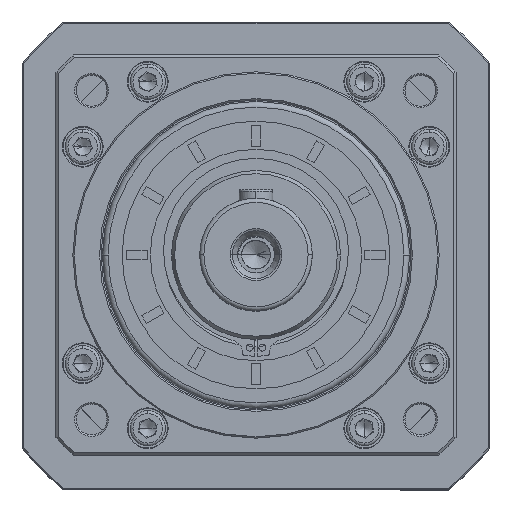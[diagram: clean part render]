
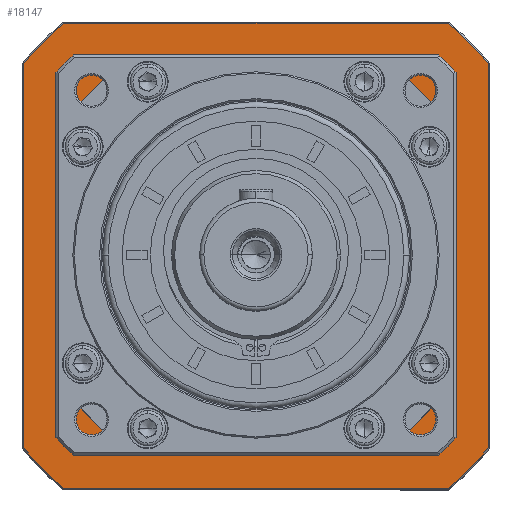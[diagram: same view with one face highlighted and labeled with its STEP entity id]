
A CAD part, top view. The second image highlights one B-rep face of the part: STEP entity #18147.
In plain terms, the highlighted planar face has unit normal (0, 0, 1).
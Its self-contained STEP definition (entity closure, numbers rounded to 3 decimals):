
#436 = AXIS2_PLACEMENT_3D ( 'NONE', #110325, #65059, #82798 ) ;
#2422 = DIRECTION ( 'NONE',  ( 0., 0., -1. ) ) ;
#3797 = CARTESIAN_POINT ( 'NONE',  ( 109.692, 76.653, 111.828 ) ) ;
#4176 = VERTEX_POINT ( 'NONE', #63539 ) ;
#5556 = CIRCLE ( 'NONE', #13897, 82. ) ;
#5875 = CARTESIAN_POINT ( 'NONE',  ( 109.692, 76.653, 111.828 ) ) ;
#6537 = LINE ( 'NONE', #83786, #113814 ) ;
#7111 = CARTESIAN_POINT ( 'NONE',  ( 109.692, 76.653, 111.828 ) ) ;
#7243 = CARTESIAN_POINT ( 'NONE',  ( 27.192, 76.653, 111.828 ) ) ;
#7482 = ORIENTED_EDGE ( 'NONE', *, *, #81609, .F. ) ;
#8190 = CARTESIAN_POINT ( 'NONE',  ( 192.192, 76.653, 111.828 ) ) ;
#10045 = AXIS2_PLACEMENT_3D ( 'NONE', #5875, #91744, #90513 ) ;
#13340 = ORIENTED_EDGE ( 'NONE', *, *, #104570, .F. ) ;
#13733 = ORIENTED_EDGE ( 'NONE', *, *, #15407, .F. ) ;
#13897 = AXIS2_PLACEMENT_3D ( 'NONE', #3797, #69550, #50282 ) ;
#14520 = DIRECTION ( 'NONE',  ( 1., 0., 0. ) ) ;
#14826 = VECTOR ( 'NONE', #14520, 1000. ) ;
#15407 = EDGE_CURVE ( 'NONE', #75190, #93184, #114615, .T. ) ;
#15991 = EDGE_LOOP ( 'NONE', ( #39449, #114896, #43828, #40459, #13733, #67727, #23677, #23781 ) ) ;
#16889 = ORIENTED_EDGE ( 'NONE', *, *, #87533, .F. ) ;
#17264 = CARTESIAN_POINT ( 'NONE',  ( 109.692, 76.653, 111.828 ) ) ;
#17441 = AXIS2_PLACEMENT_3D ( 'NONE', #7111, #43685, #62966 ) ;
#18147 = ADVANCED_FACE ( 'NONE', ( #70637, #64714 ), #47718, .F. ) ;
#21578 = DIRECTION ( 'NONE',  ( 1., 0., 0. ) ) ;
#23677 = ORIENTED_EDGE ( 'NONE', *, *, #55482, .F. ) ;
#23781 = ORIENTED_EDGE ( 'NONE', *, *, #76100, .F. ) ;
#24478 = CIRCLE ( 'NONE', #17441, 107. ) ;
#24686 = ORIENTED_EDGE ( 'NONE', *, *, #35946, .F. ) ;
#25764 = CARTESIAN_POINT ( 'NONE',  ( 192.192, 8.515, 111.828 ) ) ;
#25992 = VECTOR ( 'NONE', #78690, 1000. ) ;
#27528 = DIRECTION ( 'NONE',  ( 0., -1., 0. ) ) ;
#28740 = CARTESIAN_POINT ( 'NONE',  ( 39.192, 118.53, 111.828 ) ) ;
#32952 = VERTEX_POINT ( 'NONE', #25764 ) ;
#33318 = DIRECTION ( 'NONE',  ( -1., 0., 0. ) ) ;
#33429 = EDGE_CURVE ( 'NONE', #80915, #4176, #80371, .T. ) ;
#34929 = VERTEX_POINT ( 'NONE', #28740 ) ;
#35946 = EDGE_CURVE ( 'NONE', #66884, #102069, #105931, .T. ) ;
#36304 = CARTESIAN_POINT ( 'NONE',  ( 109.692, 76.653, 111.828 ) ) ;
#36490 = CARTESIAN_POINT ( 'NONE',  ( 27.192, 8.515, 111.828 ) ) ;
#37475 = CIRCLE ( 'NONE', #88533, 107. ) ;
#39449 = ORIENTED_EDGE ( 'NONE', *, *, #33429, .F. ) ;
#39638 = CIRCLE ( 'NONE', #10045, 82. ) ;
#40459 = ORIENTED_EDGE ( 'NONE', *, *, #121504, .F. ) ;
#41754 = LINE ( 'NONE', #8190, #47602 ) ;
#43685 = DIRECTION ( 'NONE',  ( 0., 0., -1. ) ) ;
#43828 = ORIENTED_EDGE ( 'NONE', *, *, #56528, .F. ) ;
#44073 = VERTEX_POINT ( 'NONE', #36490 ) ;
#45616 = CARTESIAN_POINT ( 'NONE',  ( 27.192, 144.79, 111.828 ) ) ;
#47156 = CARTESIAN_POINT ( 'NONE',  ( 177.83, 159.153, 111.828 ) ) ;
#47602 = VECTOR ( 'NONE', #120709, 1000. ) ;
#47718 = PLANE ( 'NONE',  #72879 ) ;
#48184 = VECTOR ( 'NONE', #65111, 1000. ) ;
#48391 = CARTESIAN_POINT ( 'NONE',  ( 180.192, 34.775, 111.828 ) ) ;
#48487 = EDGE_CURVE ( 'NONE', #34929, #119942, #6537, .T. ) ;
#49586 = CIRCLE ( 'NONE', #118965, 107. ) ;
#50016 = VERTEX_POINT ( 'NONE', #48391 ) ;
#50282 = DIRECTION ( 'NONE',  ( 0., -1., 0. ) ) ;
#54038 = CARTESIAN_POINT ( 'NONE',  ( 67.814, 6.153, 111.828 ) ) ;
#55482 = EDGE_CURVE ( 'NONE', #44073, #103645, #98159, .T. ) ;
#56528 = EDGE_CURVE ( 'NONE', #75052, #32952, #41754, .T. ) ;
#57658 = CIRCLE ( 'NONE', #61344, 82. ) ;
#58198 = CARTESIAN_POINT ( 'NONE',  ( 109.692, 159.153, 111.828 ) ) ;
#59838 = CARTESIAN_POINT ( 'NONE',  ( 192.192, 144.79, 111.828 ) ) ;
#60098 = VERTEX_POINT ( 'NONE', #93981 ) ;
#61344 = AXIS2_PLACEMENT_3D ( 'NONE', #36304, #121281, #120072 ) ;
#62966 = DIRECTION ( 'NONE',  ( -1., 0., 0. ) ) ;
#63276 = DIRECTION ( 'NONE',  ( 0., 0., -1. ) ) ;
#63534 = EDGE_CURVE ( 'NONE', #93857, #77474, #81519, .T. ) ;
#63539 = CARTESIAN_POINT ( 'NONE',  ( 41.554, -5.847, 111.828 ) ) ;
#64060 = CARTESIAN_POINT ( 'NONE',  ( 177.83, -5.847, 111.828 ) ) ;
#64714 = FACE_BOUND ( 'NONE', #86428, .T. ) ;
#65059 = DIRECTION ( 'NONE',  ( 0., 0., 1. ) ) ;
#65111 = DIRECTION ( 'NONE',  ( 0., 1., 0. ) ) ;
#66884 = VERTEX_POINT ( 'NONE', #54038 ) ;
#67727 = ORIENTED_EDGE ( 'NONE', *, *, #101021, .F. ) ;
#68205 = DIRECTION ( 'NONE',  ( -1., 0., 0. ) ) ;
#69096 = AXIS2_PLACEMENT_3D ( 'NONE', #97813, #98586, #33318 ) ;
#69550 = DIRECTION ( 'NONE',  ( 0., 0., 1. ) ) ;
#69851 = CARTESIAN_POINT ( 'NONE',  ( 67.814, 147.153, 111.828 ) ) ;
#70637 = FACE_OUTER_BOUND ( 'NONE', #15991, .T. ) ;
#71745 = CARTESIAN_POINT ( 'NONE',  ( 151.57, 6.153, 111.828 ) ) ;
#72879 = AXIS2_PLACEMENT_3D ( 'NONE', #76873, #2422, #68205 ) ;
#73358 = VECTOR ( 'NONE', #102378, 1000. ) ;
#75052 = VERTEX_POINT ( 'NONE', #59838 ) ;
#75190 = VERTEX_POINT ( 'NONE', #89775 ) ;
#75867 = ORIENTED_EDGE ( 'NONE', *, *, #48487, .F. ) ;
#76100 = EDGE_CURVE ( 'NONE', #4176, #44073, #90768, .T. ) ;
#76873 = CARTESIAN_POINT ( 'NONE',  ( 109.692, 76.653, 111.828 ) ) ;
#77474 = VERTEX_POINT ( 'NONE', #69851 ) ;
#78690 = DIRECTION ( 'NONE',  ( -1., 0., 0. ) ) ;
#80371 = LINE ( 'NONE', #106198, #25992 ) ;
#80915 = VERTEX_POINT ( 'NONE', #64060 ) ;
#81519 = LINE ( 'NONE', #111755, #119700 ) ;
#81547 = DIRECTION ( 'NONE',  ( -1., 0., 0. ) ) ;
#81609 = EDGE_CURVE ( 'NONE', #50016, #60098, #98337, .T. ) ;
#82798 = DIRECTION ( 'NONE',  ( 1., 0., 0. ) ) ;
#83786 = CARTESIAN_POINT ( 'NONE',  ( 39.192, 5.653, 111.828 ) ) ;
#84231 = DIRECTION ( 'NONE',  ( -1., 0., 0. ) ) ;
#84352 = EDGE_CURVE ( 'NONE', #32952, #80915, #49586, .T. ) ;
#85564 = CIRCLE ( 'NONE', #436, 82. ) ;
#86428 = EDGE_LOOP ( 'NONE', ( #16889, #7482, #114781, #24686, #102936, #75867, #13340, #93407 ) ) ;
#87533 = EDGE_CURVE ( 'NONE', #60098, #93857, #5556, .T. ) ;
#88533 = AXIS2_PLACEMENT_3D ( 'NONE', #17264, #63276, #120771 ) ;
#89775 = CARTESIAN_POINT ( 'NONE',  ( 41.554, 159.153, 111.828 ) ) ;
#90513 = DIRECTION ( 'NONE',  ( 1., 0., 0. ) ) ;
#90768 = CIRCLE ( 'NONE', #69096, 107. ) ;
#91744 = DIRECTION ( 'NONE',  ( 0., 0., 1. ) ) ;
#93184 = VERTEX_POINT ( 'NONE', #47156 ) ;
#93232 = CARTESIAN_POINT ( 'NONE',  ( 39.192, 34.775, 111.828 ) ) ;
#93407 = ORIENTED_EDGE ( 'NONE', *, *, #63534, .F. ) ;
#93857 = VERTEX_POINT ( 'NONE', #115207 ) ;
#93981 = CARTESIAN_POINT ( 'NONE',  ( 180.192, 118.53, 111.828 ) ) ;
#94206 = EDGE_CURVE ( 'NONE', #119942, #66884, #57658, .T. ) ;
#94990 = CARTESIAN_POINT ( 'NONE',  ( 180.192, 5.653, 111.828 ) ) ;
#97813 = CARTESIAN_POINT ( 'NONE',  ( 109.692, 76.653, 111.828 ) ) ;
#98159 = LINE ( 'NONE', #7243, #48184 ) ;
#98337 = LINE ( 'NONE', #94990, #73358 ) ;
#98586 = DIRECTION ( 'NONE',  ( 0., 0., -1. ) ) ;
#101021 = EDGE_CURVE ( 'NONE', #103645, #75190, #24478, .T. ) ;
#102069 = VERTEX_POINT ( 'NONE', #71745 ) ;
#102378 = DIRECTION ( 'NONE',  ( 0., 1., 0. ) ) ;
#102936 = ORIENTED_EDGE ( 'NONE', *, *, #94206, .F. ) ;
#103645 = VERTEX_POINT ( 'NONE', #45616 ) ;
#104570 = EDGE_CURVE ( 'NONE', #77474, #34929, #85564, .T. ) ;
#105659 = EDGE_CURVE ( 'NONE', #102069, #50016, #39638, .T. ) ;
#105762 = VECTOR ( 'NONE', #21578, 1000. ) ;
#105931 = LINE ( 'NONE', #107825, #14826 ) ;
#106198 = CARTESIAN_POINT ( 'NONE',  ( 109.692, -5.847, 111.828 ) ) ;
#107825 = CARTESIAN_POINT ( 'NONE',  ( 180.692, 6.153, 111.828 ) ) ;
#109486 = CARTESIAN_POINT ( 'NONE',  ( 109.692, 76.653, 111.828 ) ) ;
#110325 = CARTESIAN_POINT ( 'NONE',  ( 109.692, 76.653, 111.828 ) ) ;
#111755 = CARTESIAN_POINT ( 'NONE',  ( 180.692, 147.153, 111.828 ) ) ;
#113814 = VECTOR ( 'NONE', #27528, 1000. ) ;
#114615 = LINE ( 'NONE', #58198, #105762 ) ;
#114781 = ORIENTED_EDGE ( 'NONE', *, *, #105659, .F. ) ;
#114896 = ORIENTED_EDGE ( 'NONE', *, *, #84352, .F. ) ;
#115207 = CARTESIAN_POINT ( 'NONE',  ( 151.57, 147.153, 111.828 ) ) ;
#118965 = AXIS2_PLACEMENT_3D ( 'NONE', #109486, #119314, #81547 ) ;
#119314 = DIRECTION ( 'NONE',  ( 0., 0., -1. ) ) ;
#119700 = VECTOR ( 'NONE', #84231, 1000. ) ;
#119942 = VERTEX_POINT ( 'NONE', #93232 ) ;
#120072 = DIRECTION ( 'NONE',  ( 1., 0., 0. ) ) ;
#120709 = DIRECTION ( 'NONE',  ( 0., -1., 0. ) ) ;
#120771 = DIRECTION ( 'NONE',  ( -1., 0., 0. ) ) ;
#121281 = DIRECTION ( 'NONE',  ( 0., 0., 1. ) ) ;
#121504 = EDGE_CURVE ( 'NONE', #93184, #75052, #37475, .T. ) ;
